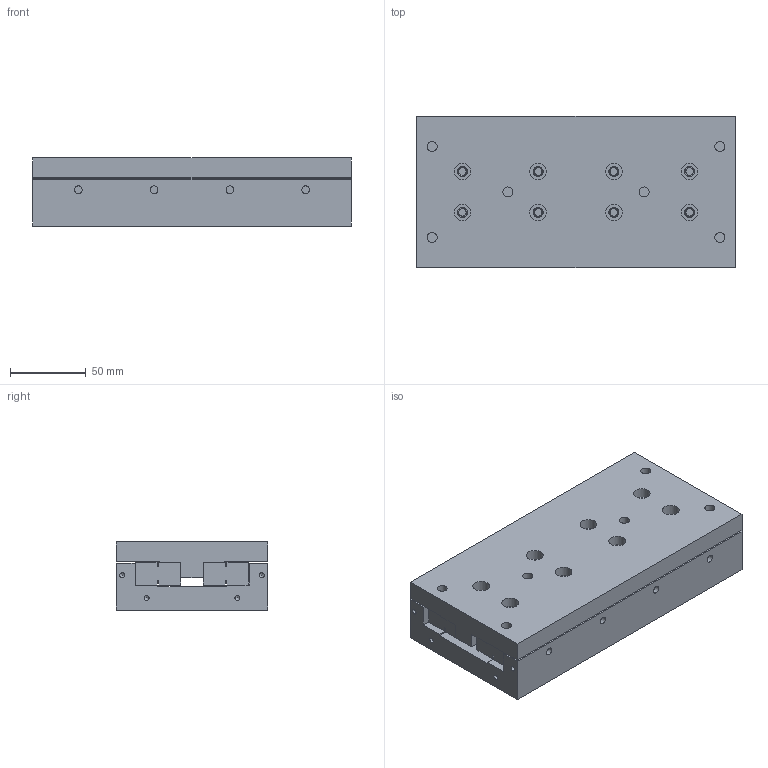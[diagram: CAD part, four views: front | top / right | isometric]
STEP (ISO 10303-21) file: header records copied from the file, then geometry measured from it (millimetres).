
FILE_DESCRIPTION(/* description */ (''),/* implementation_level */ '2;1');
FILE_NAME(/* name */ 'cru6210_stp.stp',/* time_stamp */ '2017-02-28T09:38:42+08:00',/* author */ (''),/* organization */ (''),/* preprocessor_version */ 'ST-DEVELOPER v15',/* originating_system */ 'SIEMENS PLM Software NX 8.5',/* authorisation */ '');
FILE_SCHEMA (('AUTOMOTIVE_DESIGN { 1 0 10303 214 3 1 1 1 }'));
Length unit declared in the file: millimetre
Products named in the file (4): 6210_id18_x_t; 6210_id11_x_t; 6210_id6_x_t; cru6210_stp
Assembly tree (4 placements, depth 2):
  cru6210_stp
    6210_id6_x_t
    6210_id11_x_t  x2
    6210_id18_x_t
Bounding box: 210 x 100 x 45 mm (x, y, z)
Volume: 855144.8 mm3; surface area: 180259.4 mm2
Topology: 4 solids, 4 shells, 241 faces, 601 edges, 401 vertices
Faces by surface type: plane 109, cylinder 99, cone 33
Full cylindrical faces by diameter (mm): 3.3 x8, 5 x29, 6.6 x22, 11 x38
Entity records: 5164 total; most frequent: DIRECTION 904, CARTESIAN_POINT 815, ORIENTED_EDGE 668, EDGE_LOOP 400, AXIS2_PLACEMENT_3D 376, FACE_BOUND 370, EDGE_CURVE 334, VERTEX_POINT 287
